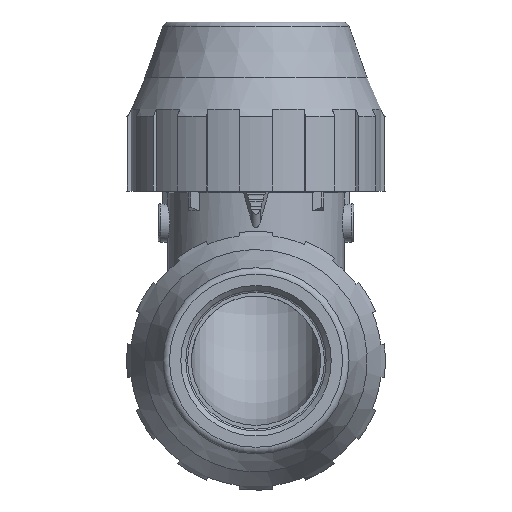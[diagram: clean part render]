
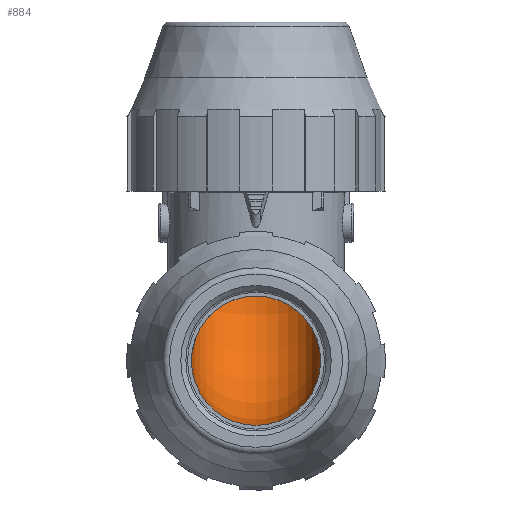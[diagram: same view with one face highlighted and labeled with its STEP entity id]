
A CAD part, front view. The second image highlights one B-rep face of the part: STEP entity #884.
In plain terms, the highlighted toroidal (fillet/blend) face has major radius 13 mm and minor radius 9.5 mm.
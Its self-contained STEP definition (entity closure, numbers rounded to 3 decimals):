
#884 = ADVANCED_FACE( '', ( #1847 ), #1848, .F. );
#1847 = FACE_OUTER_BOUND( '', #2897, .T. );
#1848 = TOROIDAL_SURFACE( '', #2898, 13., 9.5 );
#2897 = EDGE_LOOP( '', ( #5523, #5524, #5525, #5526, #5527, #5528 ) );
#2898 = AXIS2_PLACEMENT_3D( '', #5529, #5530, #5531 );
#5523 = ORIENTED_EDGE( '', *, *, #7084, .T. );
#5524 = ORIENTED_EDGE( '', *, *, #7083, .T. );
#5525 = ORIENTED_EDGE( '', *, *, #7085, .F. );
#5526 = ORIENTED_EDGE( '', *, *, #6385, .F. );
#5527 = ORIENTED_EDGE( '', *, *, #6384, .F. );
#5528 = ORIENTED_EDGE( '', *, *, #6383, .T. );
#5529 = CARTESIAN_POINT( '', ( 0., -13., -21.8 ) );
#5530 = DIRECTION( '', ( 1., 0., 0. ) );
#5531 = DIRECTION( '', ( 0., 0., 1. ) );
#6383 = EDGE_CURVE( '', #7625, #7626, #7627, .T. );
#6384 = EDGE_CURVE( '', #7625, #7628, #7629, .T. );
#6385 = EDGE_CURVE( '', #7628, #7630, #7631, .T. );
#7083 = EDGE_CURVE( '', #8674, #8675, #8676, .T. );
#7084 = EDGE_CURVE( '', #7626, #8674, #8677, .T. );
#7085 = EDGE_CURVE( '', #7630, #8675, #8678, .T. );
#7625 = VERTEX_POINT( '', #9519 );
#7626 = VERTEX_POINT( '', #9520 );
#7627 = B_SPLINE_CURVE_WITH_KNOTS( '', 3, ( #9521, #9522, #9523, #9524, #9525, #9526, #9527, #9528, #9529, #9530, #9531, #9532, #9533, #9534, #9535 ), .UNSPECIFIED., .F., .F., ( 4, 1, 1, 1, 1, 1, 1, 1, 1, 1, 1, 1, 4 ), ( 0., 0.04, 0.082, 0.125, 0.188, 0.251, 0.376, 0.501, 0.625, 0.75, 0.833, 0.917, 1. ), .UNSPECIFIED. );
#7628 = VERTEX_POINT( '', #9536 );
#7629 = CIRCLE( '', #9537, 9.5 );
#7630 = VERTEX_POINT( '', #9538 );
#7631 = B_SPLINE_CURVE_WITH_KNOTS( '', 3, ( #9539, #9540, #9541, #9542, #9543, #9544, #9545, #9546, #9547, #9548, #9549, #9550, #9551, #9552, #9553 ), .UNSPECIFIED., .F., .F., ( 4, 1, 1, 1, 1, 1, 1, 1, 1, 1, 1, 1, 4 ), ( 0., 0.044, 0.085, 0.125, 0.188, 0.251, 0.375, 0.501, 0.625, 0.75, 0.833, 0.916, 1. ), .UNSPECIFIED. );
#8674 = VERTEX_POINT( '', #11110 );
#8675 = VERTEX_POINT( '', #11111 );
#8676 = CIRCLE( '', #11112, 9.5 );
#8677 = B_SPLINE_CURVE_WITH_KNOTS( '', 3, ( #11113, #11114, #11115, #11116, #11117, #11118, #11119, #11120, #11121, #11122, #11123, #11124, #11125, #11126, #11127, #11128, #11129 ), .UNSPECIFIED., .F., .F., ( 4, 1, 1, 1, 1, 1, 1, 1, 1, 1, 1, 1, 1, 1, 4 ), ( 0., 0.042, 0.083, 0.125, 0.167, 0.208, 0.25, 0.375, 0.499, 0.624, 0.749, 0.812, 0.875, 0.939, 1. ), .UNSPECIFIED. );
#8678 = B_SPLINE_CURVE_WITH_KNOTS( '', 3, ( #11130, #11131, #11132, #11133, #11134, #11135, #11136, #11137, #11138, #11139, #11140, #11141, #11142, #11143, #11144, #11145, #11146 ), .UNSPECIFIED., .F., .F., ( 4, 1, 1, 1, 1, 1, 1, 1, 1, 1, 1, 1, 1, 1, 4 ), ( 0., 0.042, 0.084, 0.125, 0.167, 0.208, 0.25, 0.375, 0.499, 0.625, 0.749, 0.812, 0.875, 0.935, 1. ), .UNSPECIFIED. );
#9519 = CARTESIAN_POINT( '', ( -9.5, 0., -21.8 ) );
#9520 = CARTESIAN_POINT( '', ( -9.234, -2.23, -32.57 ) );
#9521 = CARTESIAN_POINT( '', ( -9.5, 0., -21.8 ) );
#9522 = CARTESIAN_POINT( '', ( -9.5, -0.001, -21.949 ) );
#9523 = CARTESIAN_POINT( '', ( -9.5, -0.003, -22.252 ) );
#9524 = CARTESIAN_POINT( '', ( -9.5, -0.015, -22.715 ) );
#9525 = CARTESIAN_POINT( '', ( -9.5, -0.039, -23.26 ) );
#9526 = CARTESIAN_POINT( '', ( -9.5, -0.08, -23.882 ) );
#9527 = CARTESIAN_POINT( '', ( -9.499, -0.166, -24.802 ) );
#9528 = CARTESIAN_POINT( '', ( -9.495, -0.319, -25.947 ) );
#9529 = CARTESIAN_POINT( '', ( -9.484, -0.571, -27.307 ) );
#9530 = CARTESIAN_POINT( '', ( -9.46, -0.891, -28.651 ) );
#9531 = CARTESIAN_POINT( '', ( -9.422, -1.232, -29.83 ) );
#9532 = CARTESIAN_POINT( '', ( -9.371, -1.571, -30.85 ) );
#9533 = CARTESIAN_POINT( '', ( -9.314, -1.885, -31.716 ) );
#9534 = CARTESIAN_POINT( '', ( -9.261, -2.115, -32.285 ) );
#9535 = CARTESIAN_POINT( '', ( -9.234, -2.23, -32.57 ) );
#9536 = CARTESIAN_POINT( '', ( 9.5, 0., -21.8 ) );
#9537 = AXIS2_PLACEMENT_3D( '', #11666, #11667, #11668 );
#9538 = CARTESIAN_POINT( '', ( 9.234, -2.23, -32.57 ) );
#9539 = CARTESIAN_POINT( '', ( 9.5, 0., -21.8 ) );
#9540 = CARTESIAN_POINT( '', ( 9.5, -0.001, -21.961 ) );
#9541 = CARTESIAN_POINT( '', ( 9.5, -0.003, -22.276 ) );
#9542 = CARTESIAN_POINT( '', ( 9.5, -0.016, -22.739 ) );
#9543 = CARTESIAN_POINT( '', ( 9.5, -0.039, -23.272 ) );
#9544 = CARTESIAN_POINT( '', ( 9.5, -0.08, -23.882 ) );
#9545 = CARTESIAN_POINT( '', ( 9.499, -0.166, -24.801 ) );
#9546 = CARTESIAN_POINT( '', ( 9.495, -0.319, -25.946 ) );
#9547 = CARTESIAN_POINT( '', ( 9.484, -0.571, -27.304 ) );
#9548 = CARTESIAN_POINT( '', ( 9.46, -0.891, -28.65 ) );
#9549 = CARTESIAN_POINT( '', ( 9.422, -1.232, -29.829 ) );
#9550 = CARTESIAN_POINT( '', ( 9.371, -1.57, -30.849 ) );
#9551 = CARTESIAN_POINT( '', ( 9.314, -1.885, -31.716 ) );
#9552 = CARTESIAN_POINT( '', ( 9.261, -2.115, -32.285 ) );
#9553 = CARTESIAN_POINT( '', ( 9.234, -2.23, -32.57 ) );
#11110 = CARTESIAN_POINT( '', ( -9.5, -13., -34.8 ) );
#11111 = CARTESIAN_POINT( '', ( 9.5, -13., -34.8 ) );
#11112 = AXIS2_PLACEMENT_3D( '', #12620, #12621, #12622 );
#11113 = CARTESIAN_POINT( '', ( -9.234, -2.23, -32.57 ) );
#11114 = CARTESIAN_POINT( '', ( -9.248, -2.372, -32.628 ) );
#11115 = CARTESIAN_POINT( '', ( -9.276, -2.656, -32.744 ) );
#11116 = CARTESIAN_POINT( '', ( -9.311, -3.086, -32.911 ) );
#11117 = CARTESIAN_POINT( '', ( -9.342, -3.517, -33.072 ) );
#11118 = CARTESIAN_POINT( '', ( -9.369, -3.951, -33.227 ) );
#11119 = CARTESIAN_POINT( '', ( -9.393, -4.388, -33.375 ) );
#11120 = CARTESIAN_POINT( '', ( -9.427, -5.118, -33.611 ) );
#11121 = CARTESIAN_POINT( '', ( -9.46, -6.149, -33.909 ) );
#11122 = CARTESIAN_POINT( '', ( -9.484, -7.493, -34.229 ) );
#11123 = CARTESIAN_POINT( '', ( -9.495, -8.853, -34.481 ) );
#11124 = CARTESIAN_POINT( '', ( -9.499, -9.998, -34.634 ) );
#11125 = CARTESIAN_POINT( '', ( -9.5, -10.918, -34.72 ) );
#11126 = CARTESIAN_POINT( '', ( -9.5, -11.618, -34.766 ) );
#11127 = CARTESIAN_POINT( '', ( -9.5, -12.312, -34.794 ) );
#11128 = CARTESIAN_POINT( '', ( -9.5, -12.775, -34.798 ) );
#11129 = CARTESIAN_POINT( '', ( -9.5, -13., -34.8 ) );
#11130 = CARTESIAN_POINT( '', ( 9.234, -2.23, -32.57 ) );
#11131 = CARTESIAN_POINT( '', ( 9.248, -2.373, -32.628 ) );
#11132 = CARTESIAN_POINT( '', ( 9.276, -2.657, -32.744 ) );
#11133 = CARTESIAN_POINT( '', ( 9.311, -3.086, -32.911 ) );
#11134 = CARTESIAN_POINT( '', ( 9.342, -3.518, -33.072 ) );
#11135 = CARTESIAN_POINT( '', ( 9.369, -3.952, -33.227 ) );
#11136 = CARTESIAN_POINT( '', ( 9.393, -4.388, -33.375 ) );
#11137 = CARTESIAN_POINT( '', ( 9.427, -5.119, -33.611 ) );
#11138 = CARTESIAN_POINT( '', ( 9.46, -6.15, -33.909 ) );
#11139 = CARTESIAN_POINT( '', ( 9.484, -7.496, -34.229 ) );
#11140 = CARTESIAN_POINT( '', ( 9.495, -8.854, -34.481 ) );
#11141 = CARTESIAN_POINT( '', ( 9.499, -9.999, -34.634 ) );
#11142 = CARTESIAN_POINT( '', ( 9.5, -10.918, -34.72 ) );
#11143 = CARTESIAN_POINT( '', ( 9.5, -11.604, -34.766 ) );
#11144 = CARTESIAN_POINT( '', ( 9.5, -12.298, -34.794 ) );
#11145 = CARTESIAN_POINT( '', ( 9.5, -12.761, -34.798 ) );
#11146 = CARTESIAN_POINT( '', ( 9.5, -13., -34.8 ) );
#11666 = CARTESIAN_POINT( '', ( 0., 0., -21.8 ) );
#11667 = DIRECTION( '', ( 0., 0., -1. ) );
#11668 = DIRECTION( '', ( 0., -1., 0. ) );
#12620 = CARTESIAN_POINT( '', ( 0., -13., -34.8 ) );
#12621 = DIRECTION( '', ( 0., -1., 0. ) );
#12622 = DIRECTION( '', ( 0., 0., 1. ) );
